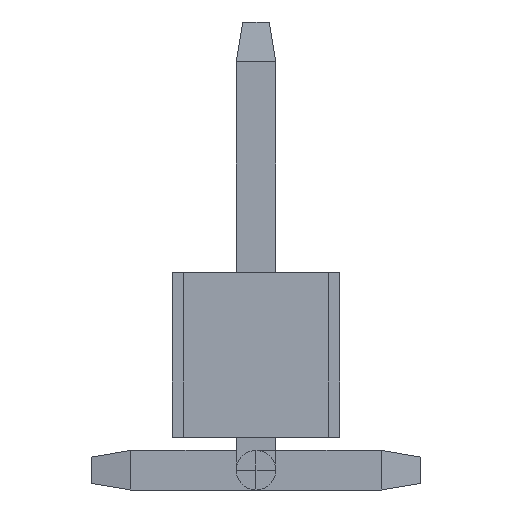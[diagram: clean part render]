
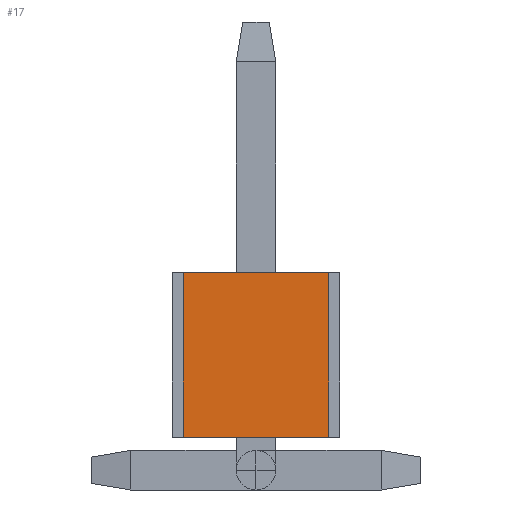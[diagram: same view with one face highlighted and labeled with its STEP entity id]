
A CAD part, left-side view. The second image highlights one B-rep face of the part: STEP entity #17.
In plain terms, the highlighted planar face has unit normal (-1, 0, 0).
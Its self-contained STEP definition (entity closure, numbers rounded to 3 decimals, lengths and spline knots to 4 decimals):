
#17 = ADVANCED_FACE('',(#18),#32,.F.);
#18 = FACE_BOUND('',#19,.F.);
#19 = EDGE_LOOP('',(#20,#55,#83,#111));
#20 = ORIENTED_EDGE('',*,*,#21,.F.);
#21 = EDGE_CURVE('',#22,#24,#26,.T.);
#22 = VERTEX_POINT('',#23);
#23 = CARTESIAN_POINT('',(-1.27,-1.1,0.8));
#24 = VERTEX_POINT('',#25);
#25 = CARTESIAN_POINT('',(-1.27,-1.1,3.3));
#26 = SURFACE_CURVE('',#27,(#31,#43),.PCURVE_S1.);
#27 = LINE('',#28,#29);
#28 = CARTESIAN_POINT('',(-1.27,-1.1,0.8));
#29 = VECTOR('',#30,1.);
#30 = DIRECTION('',(0.,0.,1.));
#31 = PCURVE('',#32,#37);
#32 = PLANE('',#33);
#33 = AXIS2_PLACEMENT_3D('',#34,#35,#36);
#34 = CARTESIAN_POINT('',(-1.27,-1.1,0.8));
#35 = DIRECTION('',(1.,0.,0.));
#36 = DIRECTION('',(0.,0.,1.));
#37 = DEFINITIONAL_REPRESENTATION('',(#38),#42);
#38 = LINE('',#39,#40);
#39 = CARTESIAN_POINT('',(0.,0.));
#40 = VECTOR('',#41,1.);
#41 = DIRECTION('',(1.,0.));
#42 = ( GEOMETRIC_REPRESENTATION_CONTEXT(2) 
PARAMETRIC_REPRESENTATION_CONTEXT() REPRESENTATION_CONTEXT('2D SPACE',''
  ) );
#43 = PCURVE('',#44,#49);
#44 = PLANE('',#45);
#45 = AXIS2_PLACEMENT_3D('',#46,#47,#48);
#46 = CARTESIAN_POINT('',(-1.27,-1.1,0.8));
#47 = DIRECTION('',(0.,1.,0.));
#48 = DIRECTION('',(0.,0.,1.));
#49 = DEFINITIONAL_REPRESENTATION('',(#50),#54);
#50 = LINE('',#51,#52);
#51 = CARTESIAN_POINT('',(0.,0.));
#52 = VECTOR('',#53,1.);
#53 = DIRECTION('',(1.,0.));
#54 = ( GEOMETRIC_REPRESENTATION_CONTEXT(2) 
PARAMETRIC_REPRESENTATION_CONTEXT() REPRESENTATION_CONTEXT('2D SPACE',''
  ) );
#55 = ORIENTED_EDGE('',*,*,#56,.T.);
#56 = EDGE_CURVE('',#22,#57,#59,.T.);
#57 = VERTEX_POINT('',#58);
#58 = CARTESIAN_POINT('',(-1.27,1.1,0.8));
#59 = SURFACE_CURVE('',#60,(#64,#71),.PCURVE_S1.);
#60 = LINE('',#61,#62);
#61 = CARTESIAN_POINT('',(-1.27,-1.1,0.8));
#62 = VECTOR('',#63,1.);
#63 = DIRECTION('',(0.,1.,0.));
#64 = PCURVE('',#32,#65);
#65 = DEFINITIONAL_REPRESENTATION('',(#66),#70);
#66 = LINE('',#67,#68);
#67 = CARTESIAN_POINT('',(0.,0.));
#68 = VECTOR('',#69,1.);
#69 = DIRECTION('',(0.,-1.));
#70 = ( GEOMETRIC_REPRESENTATION_CONTEXT(2) 
PARAMETRIC_REPRESENTATION_CONTEXT() REPRESENTATION_CONTEXT('2D SPACE',''
  ) );
#71 = PCURVE('',#72,#77);
#72 = PLANE('',#73);
#73 = AXIS2_PLACEMENT_3D('',#74,#75,#76);
#74 = CARTESIAN_POINT('',(-1.27,-1.1,0.8));
#75 = DIRECTION('',(0.,0.,1.));
#76 = DIRECTION('',(1.,0.,0.));
#77 = DEFINITIONAL_REPRESENTATION('',(#78),#82);
#78 = LINE('',#79,#80);
#79 = CARTESIAN_POINT('',(0.,0.));
#80 = VECTOR('',#81,1.);
#81 = DIRECTION('',(0.,1.));
#82 = ( GEOMETRIC_REPRESENTATION_CONTEXT(2) 
PARAMETRIC_REPRESENTATION_CONTEXT() REPRESENTATION_CONTEXT('2D SPACE',''
  ) );
#83 = ORIENTED_EDGE('',*,*,#84,.T.);
#84 = EDGE_CURVE('',#57,#85,#87,.T.);
#85 = VERTEX_POINT('',#86);
#86 = CARTESIAN_POINT('',(-1.27,1.1,3.3));
#87 = SURFACE_CURVE('',#88,(#92,#99),.PCURVE_S1.);
#88 = LINE('',#89,#90);
#89 = CARTESIAN_POINT('',(-1.27,1.1,0.8));
#90 = VECTOR('',#91,1.);
#91 = DIRECTION('',(0.,0.,1.));
#92 = PCURVE('',#32,#93);
#93 = DEFINITIONAL_REPRESENTATION('',(#94),#98);
#94 = LINE('',#95,#96);
#95 = CARTESIAN_POINT('',(0.,-2.2));
#96 = VECTOR('',#97,1.);
#97 = DIRECTION('',(1.,0.));
#98 = ( GEOMETRIC_REPRESENTATION_CONTEXT(2) 
PARAMETRIC_REPRESENTATION_CONTEXT() REPRESENTATION_CONTEXT('2D SPACE',''
  ) );
#99 = PCURVE('',#100,#105);
#100 = PLANE('',#101);
#101 = AXIS2_PLACEMENT_3D('',#102,#103,#104);
#102 = CARTESIAN_POINT('',(-1.27,1.1,0.8));
#103 = DIRECTION('',(0.,1.,0.));
#104 = DIRECTION('',(0.,0.,1.));
#105 = DEFINITIONAL_REPRESENTATION('',(#106),#110);
#106 = LINE('',#107,#108);
#107 = CARTESIAN_POINT('',(0.,0.));
#108 = VECTOR('',#109,1.);
#109 = DIRECTION('',(1.,0.));
#110 = ( GEOMETRIC_REPRESENTATION_CONTEXT(2) 
PARAMETRIC_REPRESENTATION_CONTEXT() REPRESENTATION_CONTEXT('2D SPACE',''
  ) );
#111 = ORIENTED_EDGE('',*,*,#112,.F.);
#112 = EDGE_CURVE('',#24,#85,#113,.T.);
#113 = SURFACE_CURVE('',#114,(#118,#125),.PCURVE_S1.);
#114 = LINE('',#115,#116);
#115 = CARTESIAN_POINT('',(-1.27,-1.1,3.3));
#116 = VECTOR('',#117,1.);
#117 = DIRECTION('',(0.,1.,0.));
#118 = PCURVE('',#32,#119);
#119 = DEFINITIONAL_REPRESENTATION('',(#120),#124);
#120 = LINE('',#121,#122);
#121 = CARTESIAN_POINT('',(2.5,0.));
#122 = VECTOR('',#123,1.);
#123 = DIRECTION('',(0.,-1.));
#124 = ( GEOMETRIC_REPRESENTATION_CONTEXT(2) 
PARAMETRIC_REPRESENTATION_CONTEXT() REPRESENTATION_CONTEXT('2D SPACE',''
  ) );
#125 = PCURVE('',#126,#131);
#126 = PLANE('',#127);
#127 = AXIS2_PLACEMENT_3D('',#128,#129,#130);
#128 = CARTESIAN_POINT('',(-1.27,-1.1,3.3));
#129 = DIRECTION('',(0.,0.,1.));
#130 = DIRECTION('',(1.,0.,0.));
#131 = DEFINITIONAL_REPRESENTATION('',(#132),#136);
#132 = LINE('',#133,#134);
#133 = CARTESIAN_POINT('',(0.,0.));
#134 = VECTOR('',#135,1.);
#135 = DIRECTION('',(0.,1.));
#136 = ( GEOMETRIC_REPRESENTATION_CONTEXT(2) 
PARAMETRIC_REPRESENTATION_CONTEXT() REPRESENTATION_CONTEXT('2D SPACE',''
  ) );
